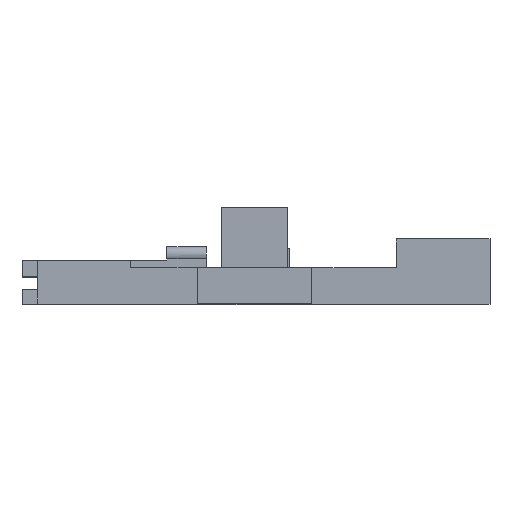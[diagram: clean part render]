
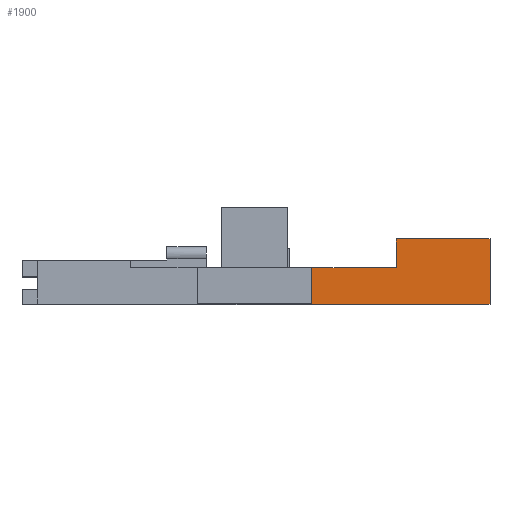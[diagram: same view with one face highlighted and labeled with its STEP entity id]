
A CAD part, top view. The second image highlights one B-rep face of the part: STEP entity #1900.
In plain terms, the highlighted planar face has unit normal (0, 0, 1).
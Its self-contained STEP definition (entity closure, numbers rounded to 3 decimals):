
#1023=CARTESIAN_POINT('Vertex',(19.,-32.5,-2.5)) ;
#1026=CARTESIAN_POINT('Line Origine',(33.,-32.5,-2.5)) ;
#1030=CARTESIAN_POINT('Vertex',(47.,-32.5,-2.5)) ;
#1846=CARTESIAN_POINT('Vertex',(19.,-44.5,-2.5)) ;
#1849=CARTESIAN_POINT('Line Origine',(19.,-38.5,-2.5)) ;
#1861=CARTESIAN_POINT('Axis2P3D Location',(15.,-39.5,-2.5)) ;
#1866=CARTESIAN_POINT('Line Origine',(48.5,-44.5,-2.5)) ;
#1870=CARTESIAN_POINT('Vertex',(78.,-44.5,-2.5)) ;
#1873=CARTESIAN_POINT('Line Origine',(78.,-32.7,-2.5)) ;
#1877=CARTESIAN_POINT('Vertex',(78.,-22.9,-2.5)) ;
#1880=CARTESIAN_POINT('Line Origine',(48.5,-22.9,-2.5)) ;
#1884=CARTESIAN_POINT('Vertex',(47.,-22.9,-2.5)) ;
#1887=CARTESIAN_POINT('Line Origine',(47.,-32.7,-2.5)) ;
#1027=DIRECTION('Vector Direction',(-1.,0.,0.)) ;
#1850=DIRECTION('Vector Direction',(0.,1.,0.)) ;
#1862=DIRECTION('Axis2P3D Direction',(0.,0.,1.)) ;
#1863=DIRECTION('Axis2P3D XDirection',(1.,0.,0.)) ;
#1867=DIRECTION('Vector Direction',(1.,0.,0.)) ;
#1874=DIRECTION('Vector Direction',(0.,1.,0.)) ;
#1881=DIRECTION('Vector Direction',(1.,0.,0.)) ;
#1888=DIRECTION('Vector Direction',(0.,1.,0.)) ;
#1864=AXIS2_PLACEMENT_3D('Plane Axis2P3D',#1861,#1862,#1863) ;
#1893=ORIENTED_EDGE('',*,*,#1032,.T.) ;
#1894=ORIENTED_EDGE('',*,*,#1853,.F.) ;
#1895=ORIENTED_EDGE('',*,*,#1872,.F.) ;
#1896=ORIENTED_EDGE('',*,*,#1879,.T.) ;
#1897=ORIENTED_EDGE('',*,*,#1886,.F.) ;
#1898=ORIENTED_EDGE('',*,*,#1891,.F.) ;
#1028=VECTOR('Line Direction',#1027,1.) ;
#1851=VECTOR('Line Direction',#1850,1.) ;
#1868=VECTOR('Line Direction',#1867,1.) ;
#1875=VECTOR('Line Direction',#1874,1.) ;
#1882=VECTOR('Line Direction',#1881,1.) ;
#1889=VECTOR('Line Direction',#1888,1.) ;
#1900=ADVANCED_FACE('\X2\96F64EF651E04F554F53\X0\',(#1899),#1865,.T.) ;
#1032=EDGE_CURVE('',#1031,#1024,#1029,.T.) ;
#1853=EDGE_CURVE('',#1847,#1024,#1852,.T.) ;
#1872=EDGE_CURVE('',#1871,#1847,#1869,.F.) ;
#1879=EDGE_CURVE('',#1871,#1878,#1876,.T.) ;
#1886=EDGE_CURVE('',#1885,#1878,#1883,.T.) ;
#1891=EDGE_CURVE('',#1031,#1885,#1890,.T.) ;
#1892=EDGE_LOOP('',(#1893,#1894,#1895,#1896,#1897,#1898)) ;
#1899=FACE_OUTER_BOUND('',#1892,.T.) ;
#1029=LINE('Line',#1026,#1028) ;
#1852=LINE('Line',#1849,#1851) ;
#1869=LINE('Line',#1866,#1868) ;
#1876=LINE('Line',#1873,#1875) ;
#1883=LINE('Line',#1880,#1882) ;
#1890=LINE('Line',#1887,#1889) ;
#1865=PLANE('Plane',#1864) ;
#1024=VERTEX_POINT('',#1023) ;
#1031=VERTEX_POINT('',#1030) ;
#1847=VERTEX_POINT('',#1846) ;
#1871=VERTEX_POINT('',#1870) ;
#1878=VERTEX_POINT('',#1877) ;
#1885=VERTEX_POINT('',#1884) ;
